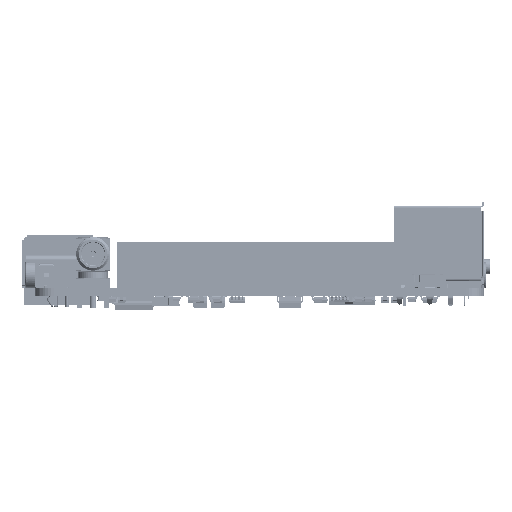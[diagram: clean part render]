
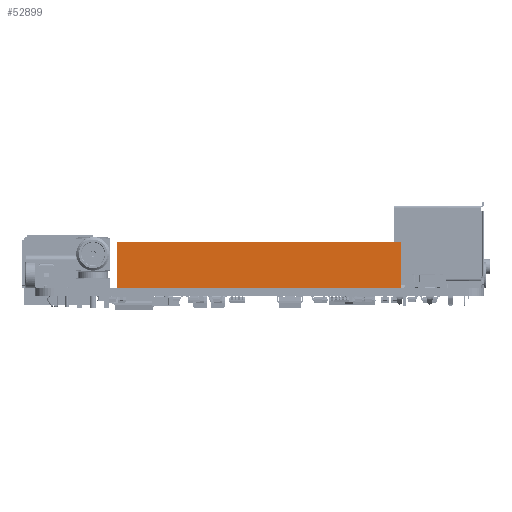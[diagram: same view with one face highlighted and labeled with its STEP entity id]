
A CAD part, left-side view. The second image highlights one B-rep face of the part: STEP entity #52899.
In plain terms, the highlighted planar face has unit normal (-1, 0, 0).
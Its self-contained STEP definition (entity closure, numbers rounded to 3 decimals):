
#39803=FACE_OUTER_BOUND('',#86955,.T.);
#52899=ADVANCED_FACE('',(#39803),#64984,.T.);
#64984=PLANE('',#306088);
#86955=EDGE_LOOP('',(#123558,#123559,#123560,#123561));
#123558=ORIENTED_EDGE('',*,*,#214885,.F.);
#123559=ORIENTED_EDGE('',*,*,#214886,.T.);
#123560=ORIENTED_EDGE('',*,*,#214879,.T.);
#123561=ORIENTED_EDGE('',*,*,#202010,.F.);
#175844=VERTEX_POINT('',#388405);
#175847=VERTEX_POINT('',#388410);
#184432=VERTEX_POINT('',#418837);
#184435=VERTEX_POINT('',#418847);
#202010=EDGE_CURVE('',#175847,#175844,#240805,.T.);
#214879=EDGE_CURVE('',#184432,#175844,#251441,.T.);
#214885=EDGE_CURVE('',#184435,#175847,#251447,.T.);
#214886=EDGE_CURVE('',#184435,#184432,#251448,.T.);
#240805=LINE('',#388411,#271035);
#251441=LINE('',#418836,#281671);
#251447=LINE('',#418848,#281677);
#251448=LINE('',#418850,#281678);
#271035=VECTOR('',#319540,1.);
#281671=VECTOR('',#342864,1.);
#281677=VECTOR('',#342874,1.);
#281678=VECTOR('',#342877,1.);
#306088=AXIS2_PLACEMENT_3D('',#418851,#342878,#342879);
#319540=DIRECTION('',(0.,1.,0.));
#342864=DIRECTION('',(0.,0.,-1.));
#342874=DIRECTION('',(0.,0.,-1.));
#342877=DIRECTION('',(0.,1.,0.));
#342878=DIRECTION('',(-1.,0.,0.));
#342879=DIRECTION('',(0.,1.,0.));
#388405=CARTESIAN_POINT('',(13.644,78.08,1.6));
#388410=CARTESIAN_POINT('',(13.644,24.267,1.6));
#388411=CARTESIAN_POINT('',(13.644,78.08,1.6));
#418836=CARTESIAN_POINT('',(13.644,78.08,1.6));
#418837=CARTESIAN_POINT('',(13.644,78.08,10.2));
#418847=CARTESIAN_POINT('',(13.644,24.267,10.2));
#418848=CARTESIAN_POINT('',(13.644,24.267,1.6));
#418850=CARTESIAN_POINT('',(13.644,78.08,10.2));
#418851=CARTESIAN_POINT('',(13.644,78.08,1.6));
